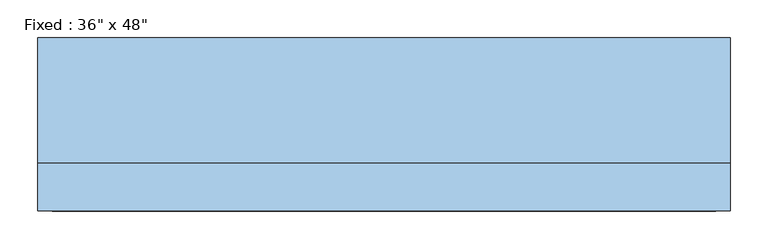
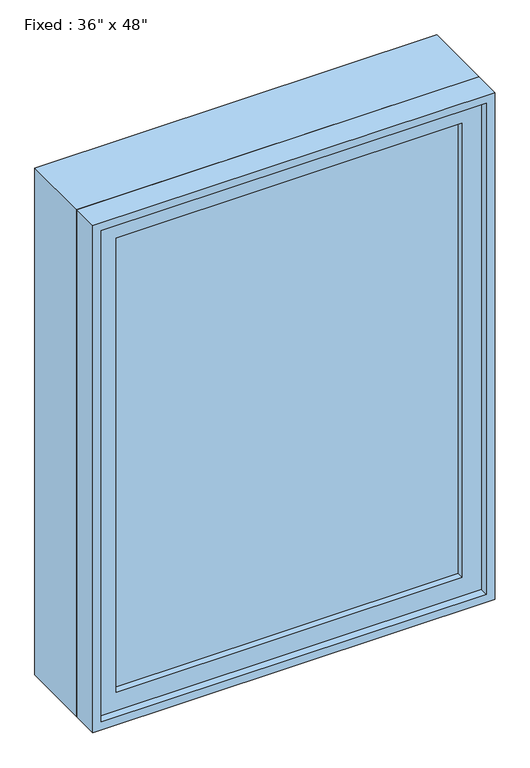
"""IFC4 building model written with IfcOpenShell, lengths in millimetres: window geometry."""

from ifc_helpers import new_model, si_unit, frame, origin, place, context, project, spatial, polyline, outline, extrude, source, transform, mapped, element, save


def window_26734613(model_context):
    return source(origin(), model_context, "Body", "SweptSolid", [
        extrude(outline(polyline([(355.6, -66.675), (355.6, -79.375), (-431.8, -79.375), (-431.8, -66.675), (355.6, -66.675)])), frame((0.0, 0.0, 977.9), z_axis=(0.0, 0.0, 1.0), x_axis=(1.0, 0.0, 0.0)), (0.0, 0.0, 1.0), 1092.2),
        extrude(outline(polyline([(2114.55, -476.25), (933.45, -476.25), (933.45, 400.05), (2114.55, 400.05), (2114.55, -476.25)]), holes=[polyline([(2070.1, -431.8), (2070.1, 355.6), (977.9, 355.6), (977.9, -431.8), (2070.1, -431.8)])]), frame((0.0, -95.25, 0.0), z_axis=(0.0, 1.0, 0.0), x_axis=(0.0, 0.0, 1.0)), (0.0, 0.0, 1.0), 44.45),
        extrude(outline(polyline([(2133.6, -495.3), (914.4, -495.3), (914.4, 419.1), (2133.6, 419.1), (2133.6, -495.3)]), holes=[polyline([(2101.85, -463.55), (2101.85, 387.35), (946.15, 387.35), (946.15, -463.55), (2101.85, -463.55)])]), frame((0.0, -50.8, 0.0), z_axis=(0.0, 1.0, 0.0), x_axis=(0.0, 0.0, 1.0)), (0.0, 0.0, 1.0), 165.1),
        extrude(outline(polyline([(2133.6, 419.1), (2133.6, -495.3), (914.4, -495.3), (914.4, 419.1), (2133.6, 419.1)]), holes=[polyline([(2114.55, 400.05), (933.45, 400.05), (933.45, -476.25), (2114.55, -476.25), (2114.55, 400.05)])]), frame((0.0, -114.3, 0.0), z_axis=(0.0, 1.0, 0.0), x_axis=(0.0, 0.0, 1.0)), (0.0, 0.0, 1.0), 63.5),
    ])


if __name__ == "__main__":
    model = new_model("IFC4")
    model_context = context("Model", 3, world=origin())
    ifc_project = project(units=[si_unit("LENGTHUNIT", "METRE", prefix="MILLI")], contexts=[model_context])
    site = spatial("IfcSite", under=ifc_project)
    building = spatial("IfcBuilding", under=site)
    placement = place(None, origin())
    window_shape = window_26734613(model_context)
    element("IfcWindow", 1, ObjectType="Fixed : 36\" x 48\"", at=placement, inside=building, context=model_context, shape_type="MappedRepresentation", body=[
        mapped(window_shape, transform((0.0, 0.0, 0.0), x_axis=(1.0, 0.0, 0.0), y_axis=(0.0, 1.0, 0.0), z_axis=(0.0, 0.0, 1.0))),
    ])
    save(model, "model.ifc")
